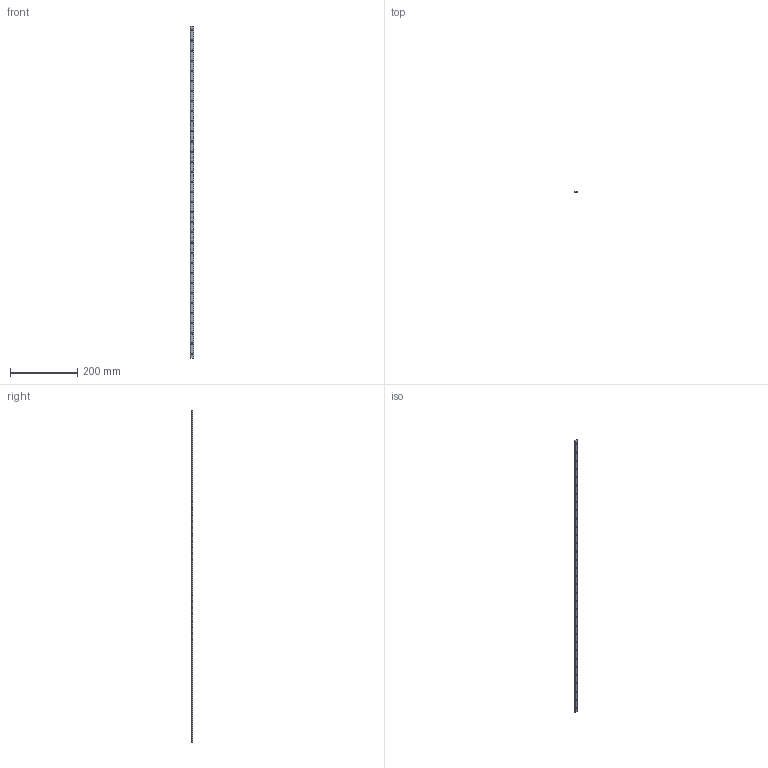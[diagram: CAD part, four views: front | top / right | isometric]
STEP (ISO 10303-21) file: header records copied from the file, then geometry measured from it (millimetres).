
FILE_DESCRIPTION(('STEP AP203'),'1');
FILE_NAME('slide_ms12l986p1.stp','2022-07-01T05:52:32',('TraceParts'),('TraceParts S.A.'),'Spatial InterOp 3D',' ',' ');
FILE_SCHEMA(('CONFIG_CONTROL_DESIGN'));
Length unit declared in the file: millimetre
Products named in the file (1): 1
Bounding box: 11.81 x 3.05 x 986 mm (x, y, z)
Volume: 29992.8 mm3; surface area: 26256.3 mm2
Topology: 1 solids, 1 shells, 78 faces, 228 edges, 152 vertices
Faces by surface type: cylinder 70, plane 8
Entity records: 2848 total; most frequent: DIRECTION 526, CARTESIAN_POINT 459, ORIENTED_EDGE 456, EDGE_CURVE 228, AXIS2_PLACEMENT_3D 219, VERTEX_POINT 152, EDGE_LOOP 144, CIRCLE 140
